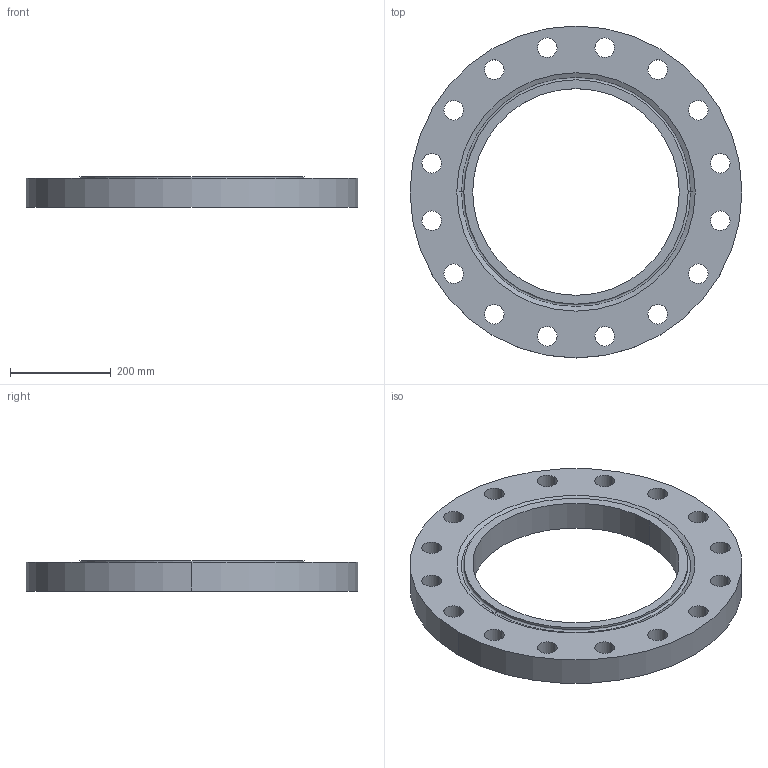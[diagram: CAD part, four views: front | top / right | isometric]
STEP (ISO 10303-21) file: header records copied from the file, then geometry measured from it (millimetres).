
FILE_DESCRIPTION (( 'STEP AP214' ), '1' );
FILE_NAME ('PN40 DN400 Type 01 - Type H Face.STEP', '2019-01-05T23:23:35', ( '' ), ( '' ), 'SwSTEP 2.0', 'SolidWorks 2019', '' );
FILE_SCHEMA (( 'AUTOMOTIVE_DESIGN' ));
Length unit declared in the file: millimetre
Products named in the file (1): PN40 DN400 Type 01 - Type H Face
Bounding box: 660 x 660 x 60 mm (x, y, z)
Volume: 10857856.2 mm3; surface area: 698911.1 mm2
Topology: 1 solids, 1 shells, 45 faces, 122 edges, 80 vertices
Faces by surface type: cylinder 38, plane 3, torus 2, cone 2
Entity records: 1568 total; most frequent: DIRECTION 296, CARTESIAN_POINT 248, ORIENTED_EDGE 244, AXIS2_PLACEMENT_3D 128, EDGE_CURVE 122, CIRCLE 82, VERTEX_POINT 80, EDGE_LOOP 80
